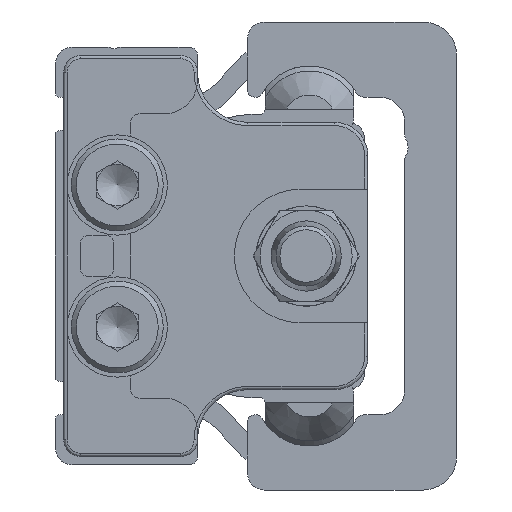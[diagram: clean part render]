
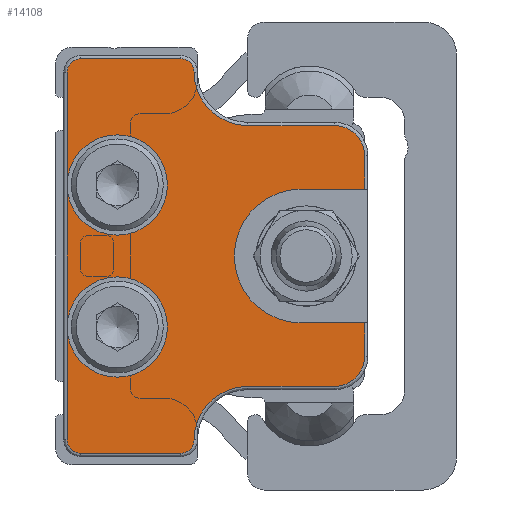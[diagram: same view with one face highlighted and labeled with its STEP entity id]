
A CAD part, left-side view. The second image highlights one B-rep face of the part: STEP entity #14108.
In plain terms, the highlighted planar face has unit normal (-1, 0, 0) as drawn and (0, 0, 1) by its records, which use the part's own axes.
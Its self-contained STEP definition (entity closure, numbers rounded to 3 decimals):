
#925=CIRCLE('',#15663,3.);
#926=CIRCLE('',#15664,0.8);
#927=CIRCLE('',#15665,0.8);
#928=CIRCLE('',#15666,3.2);
#929=CIRCLE('',#15667,1.8);
#930=CIRCLE('',#15668,4.);
#931=CIRCLE('',#15669,1.8);
#932=CIRCLE('',#15670,3.2);
#933=CIRCLE('',#15671,0.8);
#934=CIRCLE('',#15672,0.8);
#935=CIRCLE('',#15673,3.);
#4484=ORIENTED_EDGE('',*,*,#6789,.F.);
#4485=ORIENTED_EDGE('',*,*,#6790,.T.);
#4486=ORIENTED_EDGE('',*,*,#6791,.T.);
#4487=ORIENTED_EDGE('',*,*,#6792,.T.);
#4488=ORIENTED_EDGE('',*,*,#6793,.T.);
#4489=ORIENTED_EDGE('',*,*,#6794,.T.);
#4490=ORIENTED_EDGE('',*,*,#6795,.T.);
#4491=ORIENTED_EDGE('',*,*,#6796,.T.);
#4492=ORIENTED_EDGE('',*,*,#6797,.T.);
#4493=ORIENTED_EDGE('',*,*,#6798,.F.);
#4494=ORIENTED_EDGE('',*,*,#6799,.F.);
#4495=ORIENTED_EDGE('',*,*,#6800,.F.);
#4496=ORIENTED_EDGE('',*,*,#6801,.T.);
#4497=ORIENTED_EDGE('',*,*,#6802,.T.);
#4498=ORIENTED_EDGE('',*,*,#6803,.T.);
#4499=ORIENTED_EDGE('',*,*,#6804,.T.);
#4500=ORIENTED_EDGE('',*,*,#6805,.T.);
#4501=ORIENTED_EDGE('',*,*,#6806,.T.);
#4502=ORIENTED_EDGE('',*,*,#6807,.T.);
#4503=ORIENTED_EDGE('',*,*,#6808,.T.);
#4504=ORIENTED_EDGE('',*,*,#6809,.F.);
#4505=ORIENTED_EDGE('',*,*,#6810,.T.);
#6789=EDGE_CURVE('',#8274,#8274,#925,.T.);
#6790=EDGE_CURVE('',#8274,#8275,#9359,.T.);
#6791=EDGE_CURVE('',#8275,#8276,#926,.T.);
#6792=EDGE_CURVE('',#8276,#8277,#9360,.T.);
#6793=EDGE_CURVE('',#8277,#8278,#927,.T.);
#6794=EDGE_CURVE('',#8278,#8279,#928,.F.);
#6795=EDGE_CURVE('',#8279,#8280,#9361,.T.);
#6796=EDGE_CURVE('',#8280,#8281,#929,.T.);
#6797=EDGE_CURVE('',#8281,#8282,#9362,.T.);
#6798=EDGE_CURVE('',#8283,#8282,#9363,.T.);
#6799=EDGE_CURVE('',#8284,#8283,#930,.T.);
#6800=EDGE_CURVE('',#8285,#8284,#9364,.T.);
#6801=EDGE_CURVE('',#8285,#8286,#9365,.T.);
#6802=EDGE_CURVE('',#8286,#8287,#931,.T.);
#6803=EDGE_CURVE('',#8287,#8288,#9366,.T.);
#6804=EDGE_CURVE('',#8288,#8289,#932,.F.);
#6805=EDGE_CURVE('',#8289,#8290,#933,.T.);
#6806=EDGE_CURVE('',#8290,#8291,#9367,.T.);
#6807=EDGE_CURVE('',#8291,#8292,#934,.T.);
#6808=EDGE_CURVE('',#8292,#8293,#9368,.T.);
#6809=EDGE_CURVE('',#8293,#8293,#935,.T.);
#6810=EDGE_CURVE('',#8293,#8274,#9369,.T.);
#8274=VERTEX_POINT('',#24082);
#8275=VERTEX_POINT('',#24084);
#8276=VERTEX_POINT('',#24086);
#8277=VERTEX_POINT('',#24088);
#8278=VERTEX_POINT('',#24090);
#8279=VERTEX_POINT('',#24092);
#8280=VERTEX_POINT('',#24094);
#8281=VERTEX_POINT('',#24096);
#8282=VERTEX_POINT('',#24098);
#8283=VERTEX_POINT('',#24100);
#8284=VERTEX_POINT('',#24102);
#8285=VERTEX_POINT('',#24104);
#8286=VERTEX_POINT('',#24106);
#8287=VERTEX_POINT('',#24108);
#8288=VERTEX_POINT('',#24110);
#8289=VERTEX_POINT('',#24112);
#8290=VERTEX_POINT('',#24114);
#8291=VERTEX_POINT('',#24116);
#8292=VERTEX_POINT('',#24118);
#8293=VERTEX_POINT('',#24120);
#9359=LINE('',#24083,#10395);
#9360=LINE('',#24087,#10396);
#9361=LINE('',#24093,#10397);
#9362=LINE('',#24097,#10398);
#9363=LINE('',#24099,#10399);
#9364=LINE('',#24103,#10400);
#9365=LINE('',#24105,#10401);
#9366=LINE('',#24109,#10402);
#9367=LINE('',#24115,#10403);
#9368=LINE('',#24119,#10404);
#9369=LINE('',#24122,#10405);
#10395=VECTOR('',#19524,1000.);
#10396=VECTOR('',#19527,1000.);
#10397=VECTOR('',#19532,1000.);
#10398=VECTOR('',#19535,1000.);
#10399=VECTOR('',#19536,1000.);
#10400=VECTOR('',#19539,1000.);
#10401=VECTOR('',#19540,1000.);
#10402=VECTOR('',#19543,1000.);
#10403=VECTOR('',#19548,1000.);
#10404=VECTOR('',#19551,1000.);
#10405=VECTOR('',#19554,1000.);
#11530=EDGE_LOOP('',(#4484,#4485,#4486,#4487,#4488,#4489,#4490,#4491,#4492,
#4493,#4494,#4495,#4496,#4497,#4498,#4499,#4500,#4501,#4502,#4503,#4504,
#4505));
#12719=FACE_BOUND('',#11530,.T.);
#13315=PLANE('',#15662);
#14108=ADVANCED_FACE('',(#12719),#13315,.T.);
#15662=AXIS2_PLACEMENT_3D('',#24080,#19520,#19521);
#15663=AXIS2_PLACEMENT_3D('',#24081,#19522,#19523);
#15664=AXIS2_PLACEMENT_3D('',#24085,#19525,#19526);
#15665=AXIS2_PLACEMENT_3D('',#24089,#19528,#19529);
#15666=AXIS2_PLACEMENT_3D('',#24091,#19530,#19531);
#15667=AXIS2_PLACEMENT_3D('',#24095,#19533,#19534);
#15668=AXIS2_PLACEMENT_3D('',#24101,#19537,#19538);
#15669=AXIS2_PLACEMENT_3D('',#24107,#19541,#19542);
#15670=AXIS2_PLACEMENT_3D('',#24111,#19544,#19545);
#15671=AXIS2_PLACEMENT_3D('',#24113,#19546,#19547);
#15672=AXIS2_PLACEMENT_3D('',#24117,#19549,#19550);
#15673=AXIS2_PLACEMENT_3D('',#24121,#19552,#19553);
#19520=DIRECTION('',(0.,0.,1.));
#19521=DIRECTION('',(1.,0.,0.));
#19522=DIRECTION('',(0.,0.,1.));
#19523=DIRECTION('',(1.,0.,0.));
#19524=DIRECTION('',(-1.,0.,0.));
#19525=DIRECTION('',(0.,0.,1.));
#19526=DIRECTION('',(1.,0.,0.));
#19527=DIRECTION('',(0.,-1.,0.));
#19528=DIRECTION('',(0.,0.,1.));
#19529=DIRECTION('',(1.,0.,0.));
#19530=DIRECTION('',(0.,0.,1.));
#19531=DIRECTION('',(1.,0.,0.));
#19532=DIRECTION('',(0.,-1.,0.));
#19533=DIRECTION('',(0.,0.,1.));
#19534=DIRECTION('',(1.,0.,0.));
#19535=DIRECTION('',(1.,0.,0.));
#19536=DIRECTION('',(0.,-1.,0.));
#19537=DIRECTION('',(0.,0.,1.));
#19538=DIRECTION('',(1.,0.,0.));
#19539=DIRECTION('',(0.,1.,0.));
#19540=DIRECTION('',(1.,0.,0.));
#19541=DIRECTION('',(0.,0.,1.));
#19542=DIRECTION('',(1.,0.,0.));
#19543=DIRECTION('',(0.,1.,0.));
#19544=DIRECTION('',(0.,0.,1.));
#19545=DIRECTION('',(1.,0.,0.));
#19546=DIRECTION('',(0.,0.,1.));
#19547=DIRECTION('',(1.,0.,0.));
#19548=DIRECTION('',(0.,1.,0.));
#19549=DIRECTION('',(0.,0.,1.));
#19550=DIRECTION('',(1.,0.,0.));
#19551=DIRECTION('',(-1.,0.,0.));
#19552=DIRECTION('',(0.,0.,1.));
#19553=DIRECTION('',(1.,0.,0.));
#19554=DIRECTION('',(-1.,0.,0.));
#24080=CARTESIAN_POINT('',(-11.,-7.,4.5));
#24081=CARTESIAN_POINT('',(-4.25,-3.2,4.5));
#24082=CARTESIAN_POINT('',(-4.25,-0.2,4.5));
#24083=CARTESIAN_POINT('',(-11.,-0.2,4.5));
#24084=CARTESIAN_POINT('',(-11.,-0.2,4.5));
#24085=CARTESIAN_POINT('',(-11.,-1.,4.5));
#24086=CARTESIAN_POINT('',(-11.8,-1.,4.5));
#24087=CARTESIAN_POINT('',(-11.8,-7.,4.5));
#24088=CARTESIAN_POINT('',(-11.8,-7.,4.5));
#24089=CARTESIAN_POINT('',(-11.,-7.,4.5));
#24090=CARTESIAN_POINT('',(-11.,-7.8,4.5));
#24091=CARTESIAN_POINT('',(-11.,-11.,4.5));
#24092=CARTESIAN_POINT('',(-7.8,-11.,4.5));
#24093=CARTESIAN_POINT('',(-7.8,-16.2,4.5));
#24094=CARTESIAN_POINT('',(-7.8,-16.2,4.5));
#24095=CARTESIAN_POINT('',(-6.,-16.2,4.5));
#24096=CARTESIAN_POINT('',(-6.,-18.,4.5));
#24097=CARTESIAN_POINT('',(-4.,-18.,4.5));
#24098=CARTESIAN_POINT('',(-4.,-18.,4.5));
#24099=CARTESIAN_POINT('',(-4.,-14.2,4.5));
#24100=CARTESIAN_POINT('',(-4.,-14.2,4.5));
#24101=CARTESIAN_POINT('',(0.,-14.2,4.5));
#24102=CARTESIAN_POINT('',(4.,-14.2,4.5));
#24103=CARTESIAN_POINT('',(4.,-19.2,4.5));
#24104=CARTESIAN_POINT('',(4.,-18.,4.5));
#24105=CARTESIAN_POINT('',(6.,-18.,4.5));
#24106=CARTESIAN_POINT('',(6.,-18.,4.5));
#24107=CARTESIAN_POINT('',(6.,-16.2,4.5));
#24108=CARTESIAN_POINT('',(7.8,-16.2,4.5));
#24109=CARTESIAN_POINT('',(7.8,-11.,4.5));
#24110=CARTESIAN_POINT('',(7.8,-11.,4.5));
#24111=CARTESIAN_POINT('',(11.,-11.,4.5));
#24112=CARTESIAN_POINT('',(11.,-7.8,4.5));
#24113=CARTESIAN_POINT('',(11.,-7.,4.5));
#24114=CARTESIAN_POINT('',(11.8,-7.,4.5));
#24115=CARTESIAN_POINT('',(11.8,-1.,4.5));
#24116=CARTESIAN_POINT('',(11.8,-1.,4.5));
#24117=CARTESIAN_POINT('',(11.,-1.,4.5));
#24118=CARTESIAN_POINT('',(11.,-0.2,4.5));
#24119=CARTESIAN_POINT('',(-11.,-0.2,4.5));
#24120=CARTESIAN_POINT('',(4.25,-0.2,4.5));
#24121=CARTESIAN_POINT('',(4.25,-3.2,4.5));
#24122=CARTESIAN_POINT('',(-11.,-0.2,4.5));
